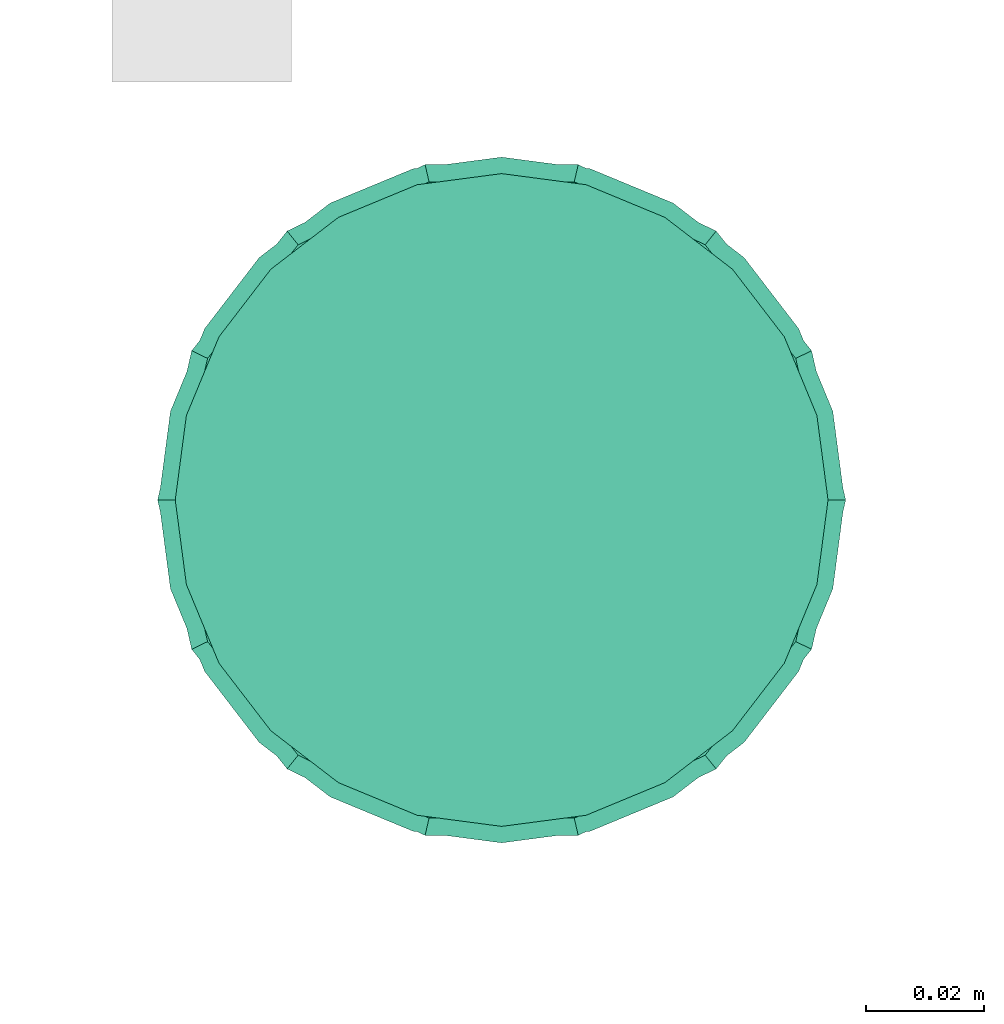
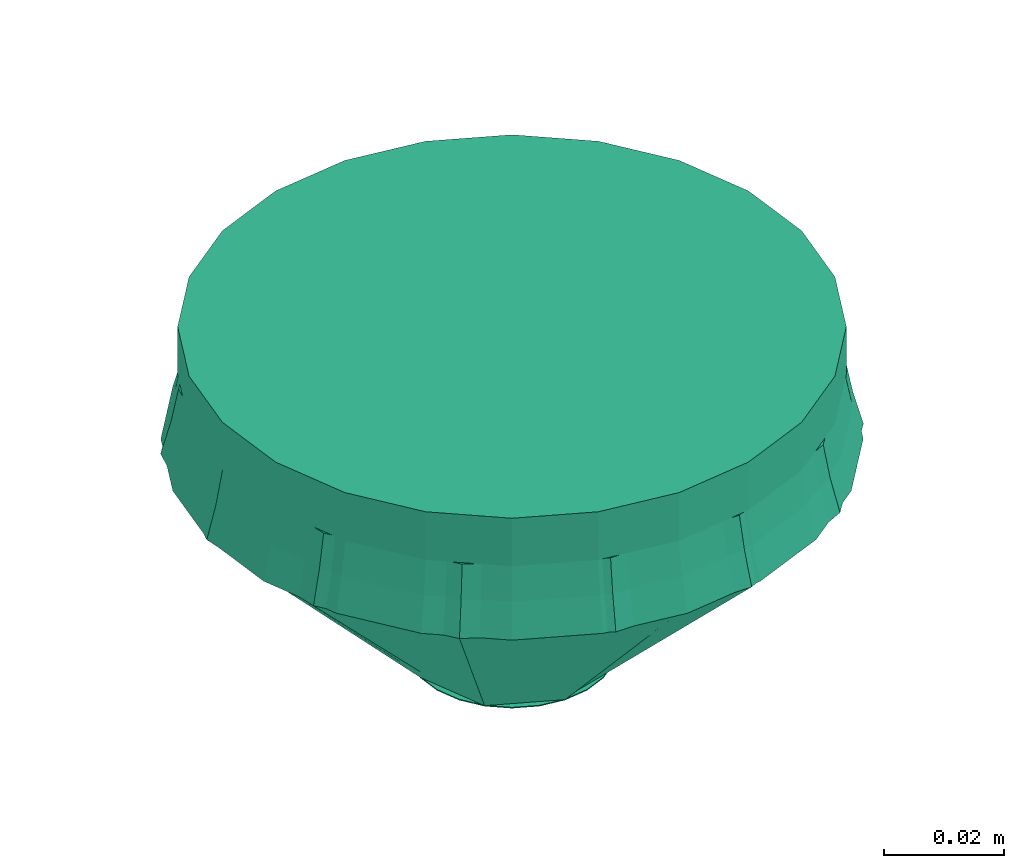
# One storey, part 21 of 22: 1 distribution control element.
"""IFC2X3 building model written with IfcOpenShell, lengths in millimetres."""

from ifc_helpers import new_model, entity, si_unit, converted_unit, derived_unit, direction, frame, origin_with_axes, place, context, subcontext, project, spatial, open_shell, surface_model, source, transform, mapped, type_object, element, save


model = new_model("IFC2X3")

# Units and contexts
model_context = context("Model", 3, precision=0.01, world=frame((0.0, 4.29681676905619e-09, 0.0)), true_north=direction((4.01073788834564e-13, 1.0)))
plan_context = context("Plan", 3, precision=0.01, world=frame((0.0, 4.29681676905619e-09, 0.0)), true_north=direction((4.01073788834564e-13, 1.0)))
body_context = subcontext(model_context, "Body", "Model", "MODEL_VIEW")
ifc_project = project(units=[converted_unit("PLANEANGLEUNIT", "DEGREE", entity("IfcPositiveLengthMeasure", 0.0174532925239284), si_unit("PLANEANGLEUNIT", "RADIAN"), dimensions=[0, 0, 0, 0, 0, 0, 0]), si_unit("AREAUNIT", "SQUARE_METRE"), si_unit("LENGTHUNIT", "METRE", prefix="MILLI"), si_unit("MASSUNIT", "GRAM", prefix="KILO"), si_unit("POWERUNIT", "WATT"), si_unit("PRESSUREUNIT", "PASCAL", prefix="KILO"), si_unit("FORCEUNIT", "NEWTON", prefix="KILO"), si_unit("ELECTRICVOLTAGEUNIT", "VOLT"), si_unit("ELECTRICCURRENTUNIT", "AMPERE"), si_unit("THERMODYNAMICTEMPERATUREUNIT", "DEGREE_CELSIUS"), si_unit("TIMEUNIT", "SECOND"), si_unit("VOLUMEUNIT", "CUBIC_METRE"), derived_unit("LINEARVELOCITYUNIT", [(si_unit("LENGTHUNIT", "METRE"), 1), (si_unit("TIMEUNIT", "SECOND"), -1)]), derived_unit("VOLUMETRICFLOWRATEUNIT", [(si_unit("VOLUMEUNIT", "CUBIC_METRE"), 1), (si_unit("TIMEUNIT", "SECOND"), -1)]), derived_unit("THERMALTRANSMITTANCEUNIT", [(si_unit("POWERUNIT", "WATT"), 1), (si_unit("THERMODYNAMICTEMPERATUREUNIT", "KELVIN"), -1), (si_unit("AREAUNIT", "SQUARE_METRE"), -1)]), derived_unit("SOUNDPRESSUREUNIT", [(si_unit("PRESSUREUNIT", "PASCAL"), 1)])], contexts=[model_context, plan_context])

# Site, building, storey
site_placement = place(None, frame((0.0, -4.29681676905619e-09, 0.0), z_axis=(0.0, 0.0, 1.0), x_axis=(1.0, 0.0, 0.0)))
site = spatial("IfcSite", under=ifc_project, at=site_placement, Name="ENGM", CompositionType="ELEMENT")
building_placement = place(site_placement, frame((0.0, 4.29681676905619e-09, 0.0), z_axis=(0.0, 0.0, 1.0), x_axis=(1.0, 0.0, 0.0)))
building = spatial("IfcBuilding", under=site, at=building_placement, Name="TI", CompositionType="ELEMENT")
storey_placement = place(building_placement, frame((0.0, 0.0, 210900.0), z_axis=(0.0, 0.0, 1.0), x_axis=(1.0, 0.0, 0.0)))
storey = spatial("IfcBuildingStorey", under=building, at=storey_placement, Name="Nivå F", CompositionType="ELEMENT", Elevation=210900.0)

# Distribution control element
alarm_type = type_object("IfcAlarmType", Name="Standard", PredefinedType="NOTDEFINED")
shared_shape = source(origin_with_axes(), body_context, "Body", "SurfaceModel", [
    surface_model("IfcShellBasedSurfaceModel", [(8.775, -15.19875, -64.9), (-12.40972, -12.40972, -64.9), (4.54227, -16.952, -64.9), (15.19875, -8.775, -64.9), (12.40972, -12.40972, -64.9), (16.952, -4.54227, -64.9), (-4.54227, 16.952, -64.9), (-16.952, -4.54227, -64.9), (0.0, -17.55, -64.9), (-8.775, -15.19875, -64.9), (-4.54227, -16.952, -64.9), (-15.19875, -8.775, -64.9), (17.55, 0.0, -64.9), (15.19875, 8.775, -64.9), (16.952, 4.54227, -64.9), (0.0, 17.55, -64.9), (12.40972, 12.40972, -64.9), (4.54227, 16.952, -64.9), (8.775, 15.19875, -64.9), (-17.55, 0.0, -64.9), (-15.19875, 8.775, -64.9), (-16.952, 4.54227, -64.9), (-12.40972, 12.40972, -64.9), (-8.775, 15.19875, -64.9), (16.952, 4.54227, -65.1), (0.0, 17.55, -65.1), (4.54227, 16.952, -65.1), (12.40972, 12.40972, -65.1), (8.775, 15.19875, -65.1), (15.19875, 8.775, -65.1), (-12.40972, 12.40972, -65.1), (-4.54227, 16.952, -65.1), (-8.775, 15.19875, -65.1), (-15.19875, 8.775, -65.1), (-17.55, 0.0, -65.1), (-16.952, 4.54227, -65.1), (-16.952, -4.54227, -65.1), (16.952, -4.54227, -65.1), (8.775, -15.19875, -65.1), (15.19875, -8.775, -65.1), (12.40972, -12.40972, -65.1), (-12.40972, -12.40972, -65.1), (4.54227, -16.952, -65.1), (-15.19875, -8.775, -65.1), (-8.775, -15.19875, -65.1), (0.0, -17.55, -65.1), (-4.54227, -16.952, -65.1), (17.55, 0.0, -65.1), (-36.47415, 45.73714, -22.75), (-52.70668, 25.3822, -22.75), (-58.5, 0.0, -22.75), (52.70668, 25.3822, -22.75), (13.01748, 57.03328, -22.75), (-13.01748, 57.03328, -22.75), (36.47415, 45.73714, -22.75), (-52.70668, -25.3822, -22.75), (-36.47415, -45.73714, -22.75), (-13.01748, -57.03328, -22.75), (36.47415, -45.73714, -22.75), (52.70668, -25.3822, -22.75), (58.5, 0.0, -22.75), (13.01748, -57.03328, -22.75), (0.0, 17.55, -65.0), (12.40972, 12.40972, -65.0), (-12.40972, 12.40972, -65.0), (-12.40972, -12.40972, -65.0), (-17.55, 0.0, -65.0), (17.55, 0.0, -65.0), (12.40972, -12.40972, -65.0), (0.0, -17.55, -65.0), (-44.59042, -35.55967, -22.75), (-13.69479, -9.30729, -65.0), (55.60334, -12.6911, -22.75), (14.97986, -6.20486, -65.0), (16.26493, -3.10243, -65.0), (-9.30729, -13.69479, -65.0), (-6.20486, -14.97986, -65.0), (-24.74581, -51.38521, -22.75), (-14.97986, -6.20486, -65.0), (24.74581, -51.38521, -22.75), (9.30729, -13.69479, -65.0), (-55.60334, -12.6911, -22.75), (-16.26493, -3.10243, -65.0), (-3.10243, -16.26493, -65.0), (3.10243, -16.26493, -65.0), (0.0, -57.03328, -22.75), (44.59042, -35.55967, -22.75), (13.69479, -9.30729, -65.0), (6.20486, -14.97986, -65.0), (44.59042, 35.55967, -22.75), (13.69479, 9.30729, -65.0), (-55.60334, 12.6911, -22.75), (-14.97986, 6.20486, -65.0), (-16.26493, 3.10243, -65.0), (9.30729, 13.69479, -65.0), (6.20486, 14.97986, -65.0), (24.74581, 51.38521, -22.75), (14.97986, 6.20486, -65.0), (-24.74581, 51.38521, -22.75), (-9.30729, 13.69479, -65.0), (55.60334, 12.6911, -22.75), (16.26493, 3.10243, -65.0), (3.10243, 16.26493, -65.0), (-3.10243, 16.26493, -65.0), (0.0, 57.03328, -22.75), (-44.59042, 35.55967, -22.75), (-13.69479, 9.30729, -65.0), (-6.20486, 14.97986, -65.0), (-28.275, 48.97374, -16.25), (-32.41056, 45.80041, -16.25), (-13.88456, 54.72206, -16.25), (-49.79102, 26.30191, -16.25), (-39.98689, 39.98689, -16.25), (-48.97374, 28.275, -16.25), (-37.1285, 42.18021, -16.25), (-35.38305, 44.36894, -16.25), (-56.2774, 2.07059, -16.25), (-56.75, 0.0, -16.25), (-56.55, 0.0, -16.25), (-51.91976, 21.16268, -16.25), (-51.12998, 24.6229, -16.25), (-54.62311, 14.63622, -16.25), (28.275, 48.97374, -16.25), (14.63622, 54.62311, -16.25), (13.88456, 54.72206, -16.25), (54.62311, -14.63622, -16.25), (56.2774, -2.07059, -16.25), (51.91976, -21.16268, -16.25), (12.62806, 55.32716, -16.25), (9.2884, 55.32716, -16.25), (49.79102, 26.30191, -16.25), (39.98689, 39.98689, -16.25), (37.1285, 42.18021, -16.25), (56.55, 0.0, -16.25), (56.75, 0.0, -16.25), (56.2774, 2.07059, -16.25), (39.98689, -39.98689, -16.25), (49.79102, -26.30191, -16.25), (37.1285, -42.18021, -16.25), (35.38305, 44.36894, -16.25), (32.41056, 45.80041, -16.25), (35.38305, -44.36894, -16.25), (32.41056, -45.80041, -16.25), (-56.2774, -2.07059, -16.25), (-49.79102, -26.30191, -16.25), (-51.91976, -21.16268, -16.25), (-51.12998, -24.6229, -16.25), (-37.1285, -42.18021, -16.25), (-35.38305, -44.36894, -16.25), (-32.41056, -45.80041, -16.25), (-13.88456, -54.72206, -16.25), (-28.275, -48.97374, -16.25), (-14.63622, -54.62311, -16.25), (51.12998, -24.6229, -16.25), (-39.98689, -39.98689, -16.25), (-48.97374, -28.275, -16.25), (-9.2884, 55.32716, -16.25), (-12.62806, 55.32716, -16.25), (28.275, -48.97374, -16.25), (13.88456, -54.72206, -16.25), (14.63622, -54.62311, -16.25), (48.97374, -28.275, -16.25), (12.62806, -55.32716, -16.25), (9.2884, -55.32716, -16.25), (0.0, -56.55, -16.25), (-9.2884, -55.32716, -16.25), (-12.62806, -55.32716, -16.25), (-54.62311, -14.63622, -16.25), (-14.63622, 54.62311, -16.25), (0.0, 56.55, -16.25), (48.97374, 28.275, -16.25), (51.91976, 21.16268, -16.25), (51.12998, 24.6229, -16.25), (54.62311, 14.63622, -16.25), (29.15, 50.48928, -22.75), (33.43697, 47.19977, -22.75), (14.29509, 56.41801, -22.75), (51.34019, 27.09572, -22.75), (41.22432, 41.22432, -22.75), (50.48928, 29.15, -22.75), (58.0274, 2.07059, -22.75), (58.3, 0.0, -22.75), (38.25759, 43.50078, -22.75), (-33.43697, 47.19977, -22.75), (-38.25759, 43.50078, -22.75), (56.31348, 15.08915, -22.75), (53.51269, 21.85086, -22.75), (-14.29509, -56.41801, -22.75), (-9.62167, -57.03328, -22.75), (-29.15, 50.48928, -22.75), (-15.08915, 56.31348, -22.75), (-14.29509, 56.41801, -22.75), (-56.31348, -15.08915, -22.75), (-58.0274, -2.07059, -22.75), (-53.51269, -21.85086, -22.75), (-9.62167, 57.03328, -22.75), (-51.34019, 27.09572, -22.75), (-41.22432, 41.22432, -22.75), (-41.22432, -41.22432, -22.75), (-51.34019, -27.09572, -22.75), (-38.25759, -43.50078, -22.75), (-58.3, 0.0, -22.75), (-58.0274, 2.07059, -22.75), (58.0274, -2.07059, -22.75), (-33.43697, -47.19977, -22.75), (51.34019, -27.09572, -22.75), (53.51269, -21.85086, -22.75), (41.22432, -41.22432, -22.75), (38.25759, -43.50078, -22.75), (29.15, -50.48928, -22.75), (15.08915, -56.31348, -22.75), (14.29509, -56.41801, -22.75), (9.62167, -57.03328, -22.75), (33.43697, -47.19977, -22.75), (50.48928, -29.15, -22.75), (9.62167, 57.03328, -22.75), (-29.15, -50.48928, -22.75), (-15.08915, -56.31348, -22.75), (-50.48928, -29.15, -22.75), (0.0, -58.3, -22.75), (56.31348, -15.08915, -22.75), (15.08915, 56.31348, -22.75), (0.0, 58.3, -22.75), (-50.48928, 29.15, -22.75), (-53.51269, 21.85086, -22.75), (-56.31348, 15.08915, -22.75), (53.15004, -15.77246, -16.25), (43.25652, -34.49592, -16.25), (-54.78902, -16.25884, -22.75), (-53.93999, -12.31145, -16.25), (24.00555, -49.84805, -16.25), (0.0, -55.32716, -16.25), (-24.00555, -49.84805, -16.25), (-43.25652, -34.49592, -16.25), (-53.15004, 15.77246, -16.25), (-43.25652, 34.49592, -16.25), (54.78902, 16.25884, -22.75), (53.93999, 12.31145, -16.25), (-24.00555, 49.84805, -16.25), (0.0, 55.32716, -16.25), (24.00555, 49.84805, -16.25), (43.25652, 34.49592, -16.25), (-27.65, 47.8912, -9.75), (-31.6774, 44.80087, -9.75), (-13.59132, 53.51067, -9.75), (-48.68446, 25.73491, -9.75), (-39.103, 39.103, -9.75), (-47.8912, 27.65, -9.75), (-34.60368, 43.39165, -9.75), (-36.322, 41.23694, -9.75), (-55.0274, 2.07059, -9.75), (-55.5, 0.0, -9.75), (-55.3, 0.0, -9.75), (-50.00377, 24.08055, -9.75), (-50.78195, 20.67112, -9.75), (-53.4157, 14.31269, -9.75), (27.65, 47.8912, -9.75), (14.31269, 53.4157, -9.75), (13.59132, 53.51067, -9.75), (53.4157, -14.31269, -9.75), (55.0274, -2.07059, -9.75), (50.78195, -20.67112, -9.75), (9.05035, 54.1085, -9.75), (12.34991, 54.1085, -9.75), (48.68446, 25.73491, -9.75), (39.103, 39.103, -9.75), (36.322, 41.23694, -9.75), (39.103, -39.103, -9.75), (48.68446, -25.73491, -9.75), (36.322, -41.23694, -9.75), (34.60368, 43.39165, -9.75), (31.6774, 44.80087, -9.75), (55.0274, 2.07059, -9.75), (55.3, 0.0, -9.75), (55.5, 0.0, -9.75), (34.60368, -43.39165, -9.75), (31.6774, -44.80087, -9.75), (-55.0274, -2.07059, -9.75), (-48.68446, -25.73491, -9.75), (-50.78195, -20.67112, -9.75), (-50.00377, -24.08055, -9.75), (-12.34991, -54.1085, -9.75), (-9.05035, -54.1085, -9.75), (-13.59132, -53.51067, -9.75), (-27.65, -47.8912, -9.75), (-14.31269, -53.4157, -9.75), (50.00377, -24.08055, -9.75), (-31.6774, -44.80087, -9.75), (-39.103, -39.103, -9.75), (-36.322, -41.23694, -9.75), (-47.8912, -27.65, -9.75), (-9.05035, 54.1085, -9.75), (-12.34991, 54.1085, -9.75), (27.65, -47.8912, -9.75), (13.59132, -53.51067, -9.75), (14.31269, -53.4157, -9.75), (47.8912, -27.65, -9.75), (0.0, -55.3, -9.75), (9.05035, -54.1085, -9.75), (12.34991, -54.1085, -9.75), (-34.60368, -43.39165, -9.75), (-53.4157, -14.31269, -9.75), (-14.31269, 53.4157, -9.75), (0.0, 55.3, -9.75), (47.8912, 27.65, -9.75), (50.78195, 20.67112, -9.75), (50.00377, 24.08055, -9.75), (53.4157, 14.31269, -9.75), (51.93259, -15.62982, -9.75), (42.30373, -33.7361, -9.75), (-53.10225, -15.98184, -16.25), (-52.75189, -12.04027, -9.75), (23.4768, -48.75007, -9.75), (53.93999, -12.31145, -16.25), (0.0, -54.1085, -9.75), (-23.4768, -48.75007, -9.75), (-42.30373, -33.7361, -9.75), (-51.93259, 15.62982, -9.75), (-42.30373, 33.7361, -9.75), (53.10225, 15.98184, -16.25), (52.75189, 12.04027, -9.75), (-23.4768, 48.75007, -9.75), (-53.93999, 12.31145, -16.25), (0.0, 54.1085, -9.75), (23.4768, 48.75007, -9.75), (42.30373, 33.7361, -9.75), (14.36446, -53.60888, 0.0), (27.75, -48.06441, 0.0), (39.24443, -39.24443, 0.0), (0.0, -55.5, 0.0), (48.06441, -27.75, 0.0), (53.60888, -14.36446, 0.0), (55.5, 0.0, 0.0), (-27.75, -48.06441, 0.0), (-14.36446, -53.60888, 0.0), (-48.06441, -27.75, 0.0), (-39.24443, -39.24443, 0.0), (-53.60888, -14.36446, 0.0), (48.06441, 27.75, 0.0), (14.36446, 53.60888, 0.0), (39.24443, 39.24443, 0.0), (0.0, 55.5, 0.0), (27.75, 48.06441, 0.0), (-27.75, 48.06441, 0.0), (-55.5, 0.0, 0.0), (-48.06441, 27.75, 0.0), (-53.60888, 14.36446, 0.0), (-39.24443, 39.24443, 0.0), (-14.36446, 53.60888, 0.0), (53.60888, 14.36446, 0.0), (14.36446, 53.60888, -9.75), (-27.75, 48.06441, -9.75), (0.0, 55.5, -9.75), (39.24443, 39.24443, -9.75), (27.75, 48.06441, -9.75), (48.06441, 27.75, -9.75), (53.60888, 14.36446, -9.75), (-48.06441, 27.75, -9.75), (-39.24443, 39.24443, -9.75), (-14.36446, 53.60888, -9.75), (-53.60888, 14.36446, -9.75), (53.60888, -14.36446, -9.75), (48.06441, -27.75, -9.75), (-53.60888, -14.36446, -9.75), (39.24443, -39.24443, -9.75), (27.75, -48.06441, -9.75), (14.36446, -53.60888, -9.75), (-27.75, -48.06441, -9.75), (-48.06441, -27.75, -9.75), (-39.24443, -39.24443, -9.75), (0.0, -55.5, -9.75), (-14.36446, -53.60888, -9.75)], [open_shell([[[0, 1, 2]], [[3, 0, 4]], [[0, 5, 1]], [[5, 0, 3]], [[5, 6, 7]], [[8, 9, 10]], [[9, 8, 1]], [[1, 7, 11]], [[1, 8, 2]], [[5, 7, 1]], [[5, 12, 6]], [[13, 6, 14]], [[15, 13, 16]], [[17, 15, 16]], [[17, 16, 18]], [[6, 13, 15]], [[19, 20, 21]], [[19, 7, 20]], [[22, 6, 23]], [[7, 22, 20]], [[6, 22, 7]], [[12, 14, 6]], [[24, 25, 26]], [[27, 26, 28]], [[29, 24, 26]], [[29, 26, 27]], [[25, 24, 30]], [[31, 30, 32]], [[31, 25, 30]], [[33, 34, 35]], [[36, 34, 33]], [[33, 30, 36]], [[30, 24, 37]], [[36, 30, 37]], [[38, 37, 39]], [[36, 37, 38]], [[38, 39, 40]], [[41, 38, 42]], [[36, 41, 43]], [[36, 38, 41]], [[44, 45, 46]], [[45, 44, 41]], [[42, 45, 41]], [[37, 24, 47]], [[36, 7, 34]], [[43, 11, 36]], [[9, 41, 44]], [[43, 41, 1]], [[10, 44, 46]], [[36, 11, 7]], [[7, 19, 34]], [[10, 9, 44]], [[1, 41, 9]], [[1, 11, 43]], [[8, 10, 46]], [[46, 45, 8]], [[42, 2, 45]], [[38, 0, 42]], [[3, 40, 39]], [[38, 40, 4]], [[5, 39, 37]], [[38, 4, 0]], [[0, 2, 42]], [[12, 5, 37]], [[3, 39, 5]], [[3, 4, 40]], [[47, 12, 37]], [[45, 2, 8]], [[24, 14, 47]], [[29, 13, 24]], [[18, 27, 28]], [[29, 27, 16]], [[17, 28, 26]], [[24, 13, 14]], [[14, 12, 47]], [[17, 18, 28]], [[16, 27, 18]], [[16, 13, 29]], [[15, 17, 26]], [[26, 25, 15]], [[31, 6, 25]], [[32, 23, 31]], [[20, 30, 33]], [[32, 30, 22]], [[21, 33, 35]], [[32, 22, 23]], [[23, 6, 31]], [[19, 21, 35]], [[20, 33, 21]], [[20, 22, 30]], [[34, 19, 35]], [[25, 6, 15]], [[48, 49, 50]], [[48, 50, 51]], [[52, 53, 51]], [[51, 54, 52]], [[53, 48, 51]], [[50, 55, 51]], [[55, 56, 57]], [[57, 58, 51]], [[59, 60, 58]], [[60, 51, 58]], [[57, 61, 58]], [[51, 55, 57]], [[62, 63, 64]], [[65, 66, 64]], [[64, 63, 65]], [[67, 68, 69]], [[69, 65, 67]], [[67, 65, 63]], [[65, 70, 71]], [[72, 73, 74]], [[75, 76, 77]], [[55, 78, 71]], [[79, 80, 58]], [[78, 55, 81]], [[81, 82, 78]], [[57, 76, 83]], [[84, 85, 69]], [[59, 73, 72]], [[55, 71, 70]], [[69, 85, 83]], [[60, 74, 67]], [[68, 86, 58]], [[86, 68, 87]], [[56, 65, 75]], [[87, 59, 86]], [[60, 72, 74]], [[65, 56, 70]], [[66, 82, 50]], [[50, 82, 81]], [[56, 75, 77]], [[80, 79, 88]], [[61, 84, 88]], [[80, 68, 58]], [[87, 73, 59]], [[76, 57, 77]], [[85, 84, 61]], [[57, 83, 85]], [[79, 61, 88]], [[63, 89, 90]], [[91, 92, 93]], [[94, 95, 96]], [[51, 97, 90]], [[98, 99, 48]], [[97, 51, 100]], [[100, 101, 97]], [[52, 95, 102]], [[103, 104, 62]], [[49, 92, 91]], [[51, 90, 89]], [[62, 104, 102]], [[50, 93, 66]], [[64, 105, 48]], [[105, 64, 106]], [[54, 63, 94]], [[106, 49, 105]], [[50, 91, 93]], [[63, 54, 89]], [[67, 101, 60]], [[60, 101, 100]], [[54, 94, 96]], [[99, 98, 107]], [[53, 103, 107]], [[99, 64, 48]], [[106, 92, 49]], [[95, 52, 96]], [[104, 103, 53]], [[52, 102, 104]], [[98, 53, 107]], [[108, 109, 110]], [[111, 112, 113]], [[114, 109, 115]], [[116, 117, 118]], [[119, 111, 120]], [[121, 116, 119]], [[122, 123, 124]], [[125, 126, 127]], [[128, 129, 124]], [[130, 131, 132]], [[133, 134, 135]], [[136, 137, 138]], [[132, 139, 140]], [[141, 138, 142]], [[112, 111, 114]], [[117, 143, 118]], [[144, 145, 146]], [[147, 148, 149]], [[150, 151, 152]], [[127, 137, 153]], [[151, 150, 149]], [[154, 147, 144]], [[154, 144, 155]], [[110, 156, 157]], [[158, 159, 160]], [[133, 126, 134]], [[161, 137, 136]], [[162, 159, 163]], [[164, 163, 165]], [[158, 142, 159]], [[150, 166, 165]], [[167, 145, 143]], [[108, 110, 168]], [[169, 156, 129]], [[122, 124, 140]], [[131, 130, 170]], [[130, 171, 172]], [[173, 171, 135]], [[174, 175, 176]], [[177, 178, 179]], [[180, 60, 181]], [[54, 182, 175]], [[48, 183, 184]], [[185, 180, 186]], [[57, 187, 188]], [[189, 190, 191]], [[192, 193, 194]], [[195, 191, 53]], [[196, 197, 184]], [[198, 199, 200]], [[51, 186, 177]], [[201, 50, 202]], [[203, 181, 60]], [[178, 177, 182]], [[204, 56, 200]], [[205, 206, 59]], [[205, 207, 208]], [[209, 210, 211]], [[212, 211, 61]], [[209, 211, 213]], [[194, 199, 55]], [[207, 205, 214]], [[215, 52, 176]], [[216, 187, 217]], [[201, 193, 50]], [[198, 218, 199]], [[208, 58, 213]], [[219, 188, 212]], [[204, 187, 216]], [[220, 206, 203]], [[174, 176, 221]], [[222, 215, 195]], [[189, 191, 183]], [[197, 196, 223]], [[196, 224, 49]], [[225, 224, 202]], [[153, 59, 226]], [[141, 86, 227]], [[228, 146, 229]], [[162, 79, 230]], [[134, 226, 72]], [[72, 60, 134]], [[226, 59, 72]], [[230, 58, 141]], [[59, 153, 227]], [[141, 58, 86]], [[85, 231, 166]], [[166, 57, 85]], [[148, 77, 232]], [[56, 233, 70]], [[146, 70, 233]], [[57, 232, 77]], [[146, 55, 70]], [[50, 229, 117]], [[162, 61, 79]], [[232, 57, 166]], [[58, 230, 79]], [[146, 228, 55]], [[56, 148, 233]], [[59, 227, 86]], [[148, 56, 77]], [[162, 231, 61]], [[50, 228, 229]], [[61, 231, 85]], [[120, 49, 234]], [[115, 105, 235]], [[236, 172, 237]], [[157, 98, 238]], [[117, 234, 91]], [[91, 50, 117]], [[234, 49, 91]], [[238, 48, 115]], [[49, 120, 235]], [[115, 48, 105]], [[104, 239, 128]], [[128, 52, 104]], [[139, 96, 240]], [[54, 241, 89]], [[172, 89, 241]], [[52, 240, 96]], [[172, 51, 89]], [[60, 237, 134]], [[157, 53, 98]], [[240, 52, 128]], [[48, 238, 98]], [[172, 236, 51]], [[54, 139, 241]], [[49, 235, 105]], [[139, 54, 96]], [[157, 239, 53]], [[60, 236, 237]], [[53, 239, 104]], [[125, 133, 181]], [[125, 220, 161]], [[158, 136, 207]], [[214, 136, 161]], [[160, 158, 209]], [[220, 125, 181]], [[214, 161, 220]], [[207, 209, 158]], [[136, 214, 207]], [[210, 160, 209]], [[210, 219, 164]], [[160, 210, 164]], [[151, 152, 217]], [[151, 216, 154]], [[167, 155, 218]], [[198, 155, 154]], [[118, 167, 192]], [[152, 219, 217]], [[151, 217, 216]], [[155, 198, 218]], [[118, 192, 201]], [[192, 167, 218]], [[198, 154, 216]], [[164, 219, 152]], [[121, 118, 201]], [[121, 225, 113]], [[108, 112, 197]], [[223, 112, 113]], [[168, 108, 189]], [[225, 121, 201]], [[223, 113, 225]], [[197, 189, 108]], [[112, 223, 197]], [[190, 168, 189]], [[190, 222, 169]], [[168, 190, 169]], [[122, 123, 221]], [[122, 174, 131]], [[173, 170, 179]], [[178, 170, 131]], [[133, 173, 185]], [[123, 222, 221]], [[122, 221, 174]], [[170, 178, 179]], [[133, 185, 181]], [[185, 173, 179]], [[178, 131, 174]], [[169, 222, 123]], [[242, 243, 244]], [[245, 246, 247]], [[243, 248, 249]], [[250, 251, 252]], [[253, 254, 245]], [[255, 250, 254]], [[256, 257, 258]], [[259, 260, 261]], [[262, 258, 263]], [[264, 265, 266]], [[267, 268, 269]], [[266, 270, 271]], [[272, 273, 274]], [[275, 269, 276]], [[246, 245, 249]], [[277, 252, 251]], [[278, 279, 280]], [[281, 282, 283]], [[283, 284, 285]], [[261, 268, 286]], [[284, 283, 287]], [[288, 289, 278]], [[288, 278, 290]], [[244, 291, 292]], [[293, 294, 295]], [[273, 260, 274]], [[268, 267, 296]], [[294, 293, 276]], [[297, 298, 282]], [[298, 299, 294]], [[300, 287, 289]], [[301, 279, 277]], [[242, 244, 302]], [[303, 291, 262]], [[256, 258, 271]], [[265, 264, 304]], [[264, 305, 306]], [[307, 305, 272]], [[122, 140, 124]], [[170, 130, 131]], [[135, 134, 133]], [[140, 139, 132]], [[172, 171, 130]], [[173, 135, 171]], [[110, 157, 156]], [[108, 168, 110]], [[167, 143, 145]], [[114, 111, 112]], [[154, 144, 147]], [[115, 109, 114]], [[116, 118, 117]], [[150, 165, 166]], [[131, 130, 132]], [[126, 133, 134]], [[137, 127, 153]], [[145, 144, 146]], [[159, 158, 160]], [[163, 159, 162]], [[158, 159, 142]], [[136, 138, 137]], [[136, 137, 161]], [[124, 129, 128]], [[151, 150, 152]], [[118, 143, 117]], [[155, 144, 154]], [[147, 149, 148]], [[164, 165, 163]], [[151, 149, 150]], [[138, 141, 142]], [[125, 127, 126]], [[122, 124, 123]], [[169, 129, 156]], [[108, 110, 109]], [[112, 111, 113]], [[111, 119, 120]], [[121, 119, 116]], [[286, 153, 308]], [[275, 227, 309]], [[310, 280, 311]], [[299, 230, 312]], [[274, 308, 313]], [[313, 134, 274]], [[308, 153, 313]], [[312, 141, 275]], [[153, 286, 309]], [[275, 141, 227]], [[231, 314, 281]], [[281, 166, 231]], [[300, 232, 315]], [[148, 316, 233]], [[280, 233, 316]], [[166, 315, 232]], [[280, 146, 233]], [[117, 311, 251]], [[299, 162, 230]], [[315, 166, 281]], [[141, 312, 230]], [[280, 310, 146]], [[148, 300, 316]], [[153, 309, 227]], [[300, 148, 232]], [[299, 314, 162]], [[117, 310, 311]], [[162, 314, 231]], [[253, 120, 317]], [[248, 235, 318]], [[319, 306, 320]], [[292, 238, 321]], [[251, 317, 322]], [[322, 117, 251]], [[317, 120, 322]], [[321, 115, 248]], [[120, 253, 318]], [[248, 115, 235]], [[239, 323, 263]], [[263, 128, 239]], [[270, 240, 324]], [[139, 325, 241]], [[306, 241, 325]], [[128, 324, 240]], [[306, 172, 241]], [[134, 320, 274]], [[292, 157, 238]], [[324, 128, 263]], [[115, 321, 238]], [[306, 319, 172]], [[139, 270, 325]], [[120, 318, 235]], [[270, 139, 240]], [[292, 323, 157]], [[134, 319, 320]], [[157, 323, 239]], [[259, 273, 133]], [[259, 125, 296]], [[293, 267, 136]], [[161, 267, 296]], [[295, 293, 158]], [[125, 259, 133]], [[161, 296, 125]], [[136, 158, 293]], [[267, 161, 136]], [[160, 295, 158]], [[160, 164, 297]], [[295, 160, 297]], [[284, 285, 152]], [[284, 151, 288]], [[301, 290, 155]], [[154, 290, 288]], [[252, 301, 167]], [[285, 164, 152]], [[284, 152, 151]], [[290, 154, 155]], [[252, 167, 118]], [[167, 301, 155]], [[154, 288, 151]], [[297, 164, 285]], [[255, 252, 118]], [[255, 121, 247]], [[242, 246, 112]], [[113, 246, 247]], [[302, 242, 108]], [[121, 255, 118]], [[113, 247, 121]], [[112, 108, 242]], [[246, 113, 112]], [[168, 302, 108]], [[168, 169, 303]], [[302, 168, 303]], [[256, 257, 123]], [[256, 122, 265]], [[307, 304, 170]], [[131, 304, 265]], [[273, 307, 173]], [[257, 169, 123]], [[256, 123, 122]], [[304, 131, 170]], [[273, 173, 133]], [[173, 307, 170]], [[131, 265, 122]], [[303, 169, 257]], [[326, 327, 328]], [[329, 326, 328]], [[330, 331, 332]], [[329, 328, 330]], [[333, 330, 332]], [[329, 333, 334]], [[329, 330, 333]], [[333, 335, 336]], [[335, 333, 337]], [[332, 337, 333]], [[332, 338, 337]], [[337, 338, 339]], [[339, 338, 340]], [[339, 341, 337]], [[339, 340, 342]], [[343, 337, 341]], [[344, 345, 346]], [[337, 345, 344]], [[345, 343, 347]], [[343, 345, 337]], [[341, 348, 343]], [[338, 332, 349]], [[350, 351, 352]], [[353, 350, 354]], [[355, 356, 350]], [[355, 350, 353]], [[357, 350, 356]], [[351, 357, 358]], [[351, 359, 352]], [[357, 251, 360]], [[357, 351, 350]], [[251, 357, 356]], [[356, 274, 251]], [[274, 361, 362]], [[363, 274, 362]], [[364, 365, 366]], [[362, 364, 363]], [[366, 367, 364]], [[368, 367, 369]], [[368, 363, 364]], [[367, 370, 371]], [[368, 364, 367]], [[366, 370, 367]], [[274, 363, 251]], [[363, 337, 251]], [[368, 335, 363]], [[333, 369, 367]], [[368, 369, 336]], [[334, 367, 371]], [[363, 335, 337]], [[337, 344, 251]], [[334, 333, 367]], [[336, 369, 333]], [[336, 335, 368]], [[329, 334, 371]], [[371, 370, 329]], [[366, 326, 370]], [[365, 327, 366]], [[330, 364, 362]], [[365, 364, 328]], [[331, 362, 361]], [[365, 328, 327]], [[327, 326, 366]], [[332, 331, 361]], [[330, 362, 331]], [[330, 328, 364]], [[274, 332, 361]], [[370, 326, 329]], [[356, 349, 274]], [[355, 338, 356]], [[342, 353, 354]], [[355, 353, 340]], [[339, 354, 350]], [[356, 338, 349]], [[349, 332, 274]], [[339, 342, 354]], [[340, 353, 342]], [[340, 338, 355]], [[341, 339, 350]], [[350, 352, 341]], [[359, 348, 352]], [[351, 343, 359]], [[345, 358, 357]], [[351, 358, 347]], [[346, 357, 360]], [[351, 347, 343]], [[343, 348, 359]], [[344, 346, 360]], [[345, 357, 346]], [[345, 347, 358]], [[251, 344, 360]], [[352, 348, 341]]])]),
])
distribution_control_element_placement = place(storey_placement, frame((591057.01249, 577927.65082, 2000.0), z_axis=(0.0, 0.0, 1.0), x_axis=(1.0, 0.0, 0.0)))
element("IfcDistributionControlElement", 1, at=distribution_control_element_placement, inside=storey, type_object=alarm_type, Name="Standard", context=body_context, shape_type="MappedRepresentation", body=[
    mapped(shared_shape, transform((0.0, 0.0, 0.0), scale=1.0)),
])

save(model, "model.ifc")
